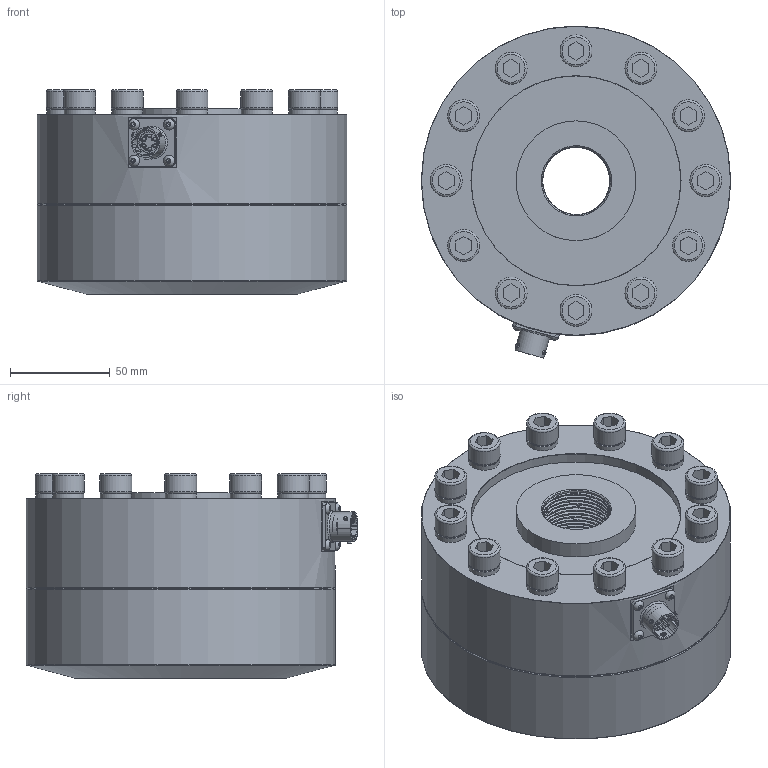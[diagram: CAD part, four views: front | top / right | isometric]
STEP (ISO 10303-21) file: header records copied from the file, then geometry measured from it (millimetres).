
FILE_DESCRIPTION(/* description */ (''),/* implementation_level */ '2;1');
FILE_NAME(/* name */ 'DSCC (100-250kN) with base only.step',/* time_stamp */ '2023-01-17T11:30:43Z',/* author */ (''),/* organization */ (''),/* preprocessor_version */ 'ST-DEVELOPER v19.2',/* originating_system */ 'Autodesk Translation Framework v11.17.0.187',/* authorisation */ '');
FILE_SCHEMA (('AUTOMOTIVE_DESIGN { 1 0 10303 214 3 1 1 }'));
Length unit declared in the file: millimetre
Products named in the file (13): DSCC Size 2 with base only; Component1; CONN-02004 - 6-pin bayonet LMH-02A-1006-PN241 with screws; Component1_1; SCREW-3-006 - M3x6 A2 stainless socket button; SCREW-3-006 - M3x6 A2 stainless socket button_1; SCREW-3-006 - M3x6 A2 stainless socket button_2; SCREW-3-006 - M3x6 A2 stainless socket button_3; Component1_2; DSCC-91903-2 - DSCC Size 2 cover to drawing A4/91903-2; DSCC Size 2 Base; WASHER-10-000 - M10 A2 Stainless spring washer; SCREW-10-004 - M10 x 55 socket head cap screw
Assembly tree (38 placements, depth 4):
  DSCC Size 2 with base only
    Component1
    CONN-02004 - 6-pin bayonet LMH-02A-1006-PN241 with screws
      Component1_1
      SCREW-3-006 - M3x6 A2 stainless socket button
        Component1_2
      SCREW-3-006 - M3x6 A2 stainless socket button_1
        Component1_2
      SCREW-3-006 - M3x6 A2 stainless socket button_2
        Component1_2
      SCREW-3-006 - M3x6 A2 stainless socket button_3
        Component1_2
    DSCC-91903-2 - DSCC Size 2 cover to drawing A4/91903-2  x2
    DSCC Size 2 Base
    WASHER-10-000 - M10 A2 Stainless spring washer  x12
    SCREW-10-004 - M10 x 55 socket head cap screw  x12
Bounding box: 155 x 166.27 x 102.5 mm (x, y, z)
Volume: 1516047.3 mm3; surface area: 206098.9 mm2
Topology: 31 solids, 38 shells, 918 faces, 2181 edges, 1427 vertices
Faces by surface type: plane 415, cylinder 285, bspline 83, cone 63, torus 52, sphere 20
Full cylindrical faces by diameter (mm): 1 x3, 1.009 x6, 1.165 x6, 1.2 x6, 1.4 x6, 1.52 x3, 1.6 x3, 2 x12, 2.03 x3, 2.2 x12, 2.529 x4, 3 x4, 3.2 x4, 5 x1, 8.526 x12, 10 x12, 10.25 x2, 10.9 x1, 11 x12, 11.05 x1, 11.35 x1, 12.55 x1, 13.85 x1, 13.9 x1, 14 x1, 14.95 x1, 15 x1, 16 x12, 34.023 x45, 36.257 x44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
Entity records: 32166 total; most frequent: CARTESIAN_POINT 16444, ORIENTED_EDGE 3176, DIRECTION 2812, EDGE_CURVE 1588, VERTEX_POINT 1055, AXIS2_PLACEMENT_3D 1020, EDGE_LOOP 787, LINE 772
